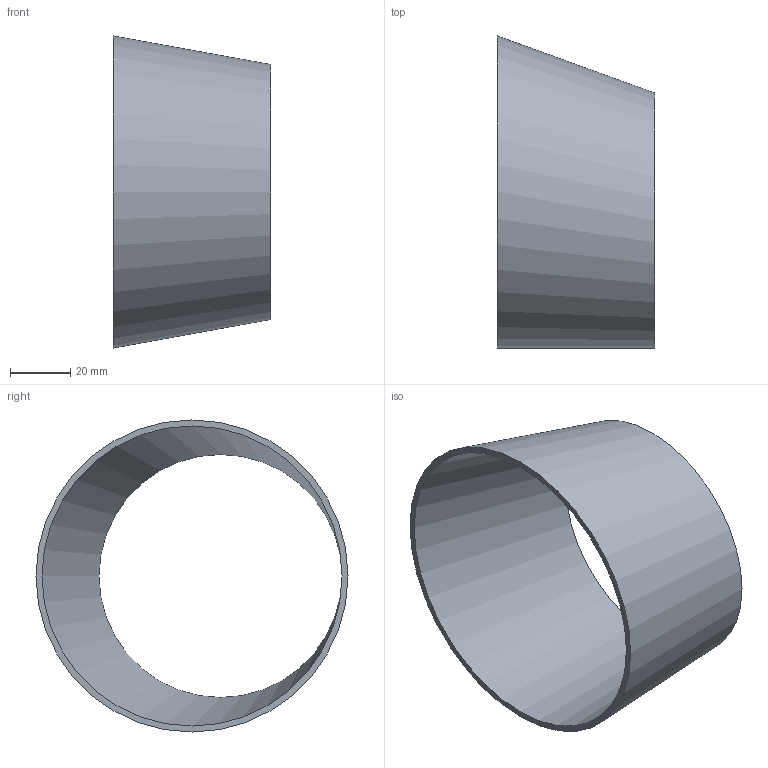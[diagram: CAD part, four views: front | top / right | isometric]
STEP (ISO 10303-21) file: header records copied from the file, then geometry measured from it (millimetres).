
FILE_DESCRIPTION(('FreeCAD Model'),'2;1');
FILE_NAME( '/home/martin/Documents/proyect/accesorios/stp/red-exc_DN100-80.step', '2017-12-31T13:04:56',('Author'),(''), 'Open CASCADE STEP processor 6.8','FreeCAD','Unknown');
FILE_SCHEMA(('AUTOMOTIVE_DESIGN_CC2 { 1 2 10303 214 -1 1 5 4 }'));
Length unit declared in the file: millimetre
Products named in the file (1): red-exc_DN100-80
Bounding box: 52.5 x 104 x 104 mm (x, y, z)
Volume: 30512.7 mm3; surface area: 32407.4 mm2
Topology: 1 solids, 1 shells, 4 faces, 6 edges, 4 vertices
Faces by surface type: bspline 2, plane 2
Entity records: 275 total; most frequent: CARTESIAN_POINT 115, DIRECTION 26, ORIENTED_EDGE 12, PCURVE 12, DEFINITIONAL_REPRESENTATION 12, CIRCLE 8, LINE 8, VECTOR 8
